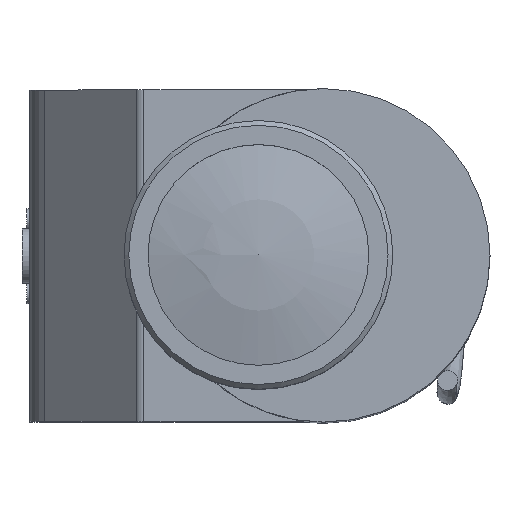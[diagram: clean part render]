
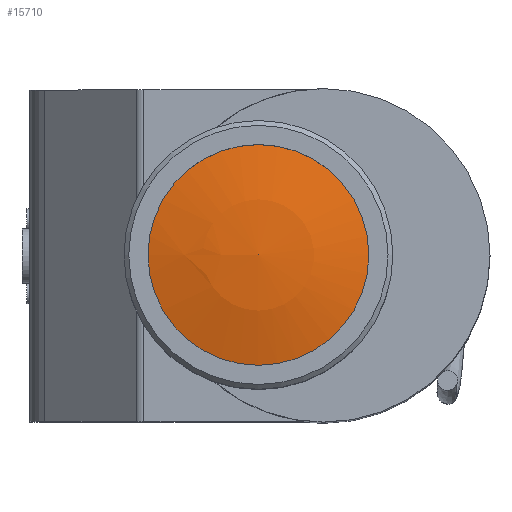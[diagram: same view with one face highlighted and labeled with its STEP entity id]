
A CAD part, top view. The second image highlights one B-rep face of the part: STEP entity #15710.
In plain terms, the highlighted spherical face has radius 89.667 mm.
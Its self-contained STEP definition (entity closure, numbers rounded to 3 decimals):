
#67=SPHERICAL_SURFACE('',#16682,89.667);
#4135=FACE_OUTER_BOUND('',#4992,.T.);
#4992=EDGE_LOOP('',(#10705,#10706,#10707,#10708));
#5982=CIRCLE('',#16683,23.);
#5983=CIRCLE('',#16684,23.);
#5984=CIRCLE('',#16685,89.667);
#6633=VERTEX_POINT('',#32300);
#6634=VERTEX_POINT('',#32301);
#6635=VERTEX_POINT('',#32304);
#8207=EDGE_CURVE('',#6633,#6634,#5982,.T.);
#8208=EDGE_CURVE('',#6634,#6633,#5983,.T.);
#8209=EDGE_CURVE('',#6633,#6635,#5984,.T.);
#10705=ORIENTED_EDGE('',*,*,#8207,.T.);
#10706=ORIENTED_EDGE('',*,*,#8208,.T.);
#10707=ORIENTED_EDGE('',*,*,#8209,.T.);
#10708=ORIENTED_EDGE('',*,*,#8209,.F.);
#15710=ADVANCED_FACE('',(#4135),#67,.T.);
#16682=AXIS2_PLACEMENT_3D('',#32299,#18495,#18496);
#16683=AXIS2_PLACEMENT_3D('',#32302,#18497,#18498);
#16684=AXIS2_PLACEMENT_3D('',#32303,#18499,#18500);
#16685=AXIS2_PLACEMENT_3D('',#32305,#18501,#18502);
#18495=DIRECTION('center_axis',(0.,0.,
-1.));
#18496=DIRECTION('ref_axis',(1.,0.,0.));
#18497=DIRECTION('center_axis',(0.,0.,
1.));
#18498=DIRECTION('ref_axis',(1.,0.,0.));
#18499=DIRECTION('center_axis',(0.,0.,
1.));
#18500=DIRECTION('ref_axis',(1.,0.,0.));
#18501=DIRECTION('center_axis',(0.,1.,0.));
#18502=DIRECTION('ref_axis',(-1.,0.,0.));
#32299=CARTESIAN_POINT('Origin',(-70.,0.,-259.067));
#32300=CARTESIAN_POINT('',(-93.,0.,-172.4));
#32301=CARTESIAN_POINT('',(-47.,0.,-172.4));
#32302=CARTESIAN_POINT('Origin',(-70.,0.,-172.4));
#32303=CARTESIAN_POINT('Origin',(-70.,0.,-172.4));
#32304=CARTESIAN_POINT('',(-70.,0.,-169.4));
#32305=CARTESIAN_POINT('Origin',(-70.,0.,-259.067));
